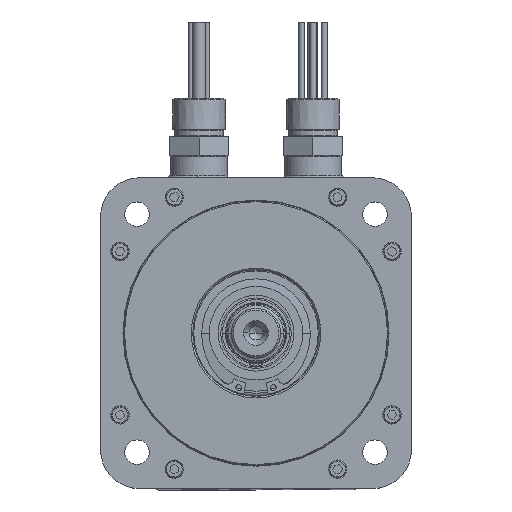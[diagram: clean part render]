
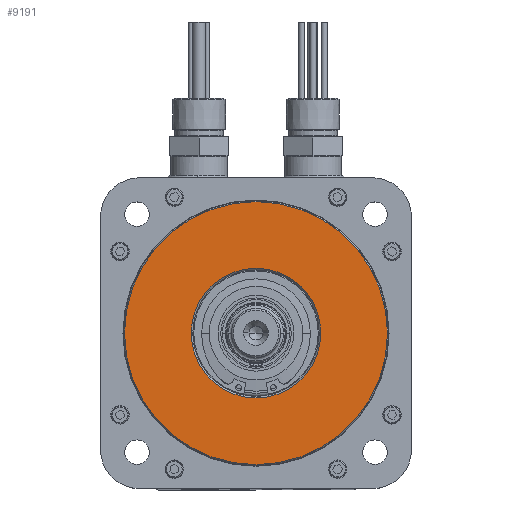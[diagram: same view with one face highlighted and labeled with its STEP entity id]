
A CAD part, top view. The second image highlights one B-rep face of the part: STEP entity #9191.
In plain terms, the highlighted planar face has unit normal (0, 0, 1).
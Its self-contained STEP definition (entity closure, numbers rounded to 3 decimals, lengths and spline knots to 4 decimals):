
#1458 = VERTEX_POINT ( 'NONE', #26340 ) ;
#3085 = DIRECTION ( 'NONE',  ( 0., 0., 1. ) ) ;
#4900 = VERTEX_POINT ( 'NONE', #22883 ) ;
#5032 = ORIENTED_EDGE ( 'NONE', *, *, #56077, .T. ) ;
#6415 = EDGE_CURVE ( 'NONE', #1458, #58271, #29816, .T. ) ;
#8069 = VERTEX_POINT ( 'NONE', #66241 ) ;
#8477 = CARTESIAN_POINT ( 'NONE',  ( 1.2507, 0., 11.627 ) ) ;
#9191 = ADVANCED_FACE ( 'NONE', ( #23707, #67849 ), #55887, .T. ) ;
#18039 = AXIS2_PLACEMENT_3D ( 'NONE', #29398, #66671, #34752 ) ;
#20230 = ORIENTED_EDGE ( 'NONE', *, *, #68920, .T. ) ;
#22883 = CARTESIAN_POINT ( 'NONE',  ( 2.5391, 0., 11.627 ) ) ;
#23310 = DIRECTION ( 'NONE',  ( 0., 0., -1. ) ) ;
#23707 = FACE_OUTER_BOUND ( 'NONE', #55006, .T. ) ;
#23776 = DIRECTION ( 'NONE',  ( 0., 0., 1. ) ) ;
#26340 = CARTESIAN_POINT ( 'NONE',  ( -1.2507, 0., 11.627 ) ) ;
#26574 = DIRECTION ( 'NONE',  ( 0., 0., 1. ) ) ;
#28141 = CIRCLE ( 'NONE', #30258, 2.5391 ) ;
#29398 = CARTESIAN_POINT ( 'NONE',  ( 0., 0., 11.627 ) ) ;
#29816 = CIRCLE ( 'NONE', #61655, 1.2508 ) ;
#30258 = AXIS2_PLACEMENT_3D ( 'NONE', #55608, #23776, #60981 ) ;
#34752 = DIRECTION ( 'NONE',  ( 1., 0., 0. ) ) ;
#40325 = DIRECTION ( 'NONE',  ( 1., 0., 0. ) ) ;
#47669 = EDGE_LOOP ( 'NONE', ( #65011, #62632 ) ) ;
#50123 = AXIS2_PLACEMENT_3D ( 'NONE', #61460, #3085, #40325 ) ;
#52530 = CIRCLE ( 'NONE', #55018, 2.5391 ) ;
#55006 = EDGE_LOOP ( 'NONE', ( #5032, #20230 ) ) ;
#55018 = AXIS2_PLACEMENT_3D ( 'NONE', #58427, #26574, #63811 ) ;
#55173 = CARTESIAN_POINT ( 'NONE',  ( 0., 0., 11.627 ) ) ;
#55608 = CARTESIAN_POINT ( 'NONE',  ( 0., 0., 11.627 ) ) ;
#55887 = PLANE ( 'NONE',  #50123 ) ;
#56077 = EDGE_CURVE ( 'NONE', #8069, #4900, #28141, .T. ) ;
#58271 = VERTEX_POINT ( 'NONE', #8477 ) ;
#58427 = CARTESIAN_POINT ( 'NONE',  ( 0., 0., 11.627 ) ) ;
#60512 = DIRECTION ( 'NONE',  ( 1., 0., 0. ) ) ;
#60782 = EDGE_CURVE ( 'NONE', #58271, #1458, #63869, .T. ) ;
#60981 = DIRECTION ( 'NONE',  ( 1., 0., 0. ) ) ;
#61460 = CARTESIAN_POINT ( 'NONE',  ( 0., 1.2208, 11.627 ) ) ;
#61655 = AXIS2_PLACEMENT_3D ( 'NONE', #55173, #23310, #60512 ) ;
#62632 = ORIENTED_EDGE ( 'NONE', *, *, #6415, .T. ) ;
#63811 = DIRECTION ( 'NONE',  ( 1., 0., 0. ) ) ;
#63869 = CIRCLE ( 'NONE', #18039, 1.2508 ) ;
#65011 = ORIENTED_EDGE ( 'NONE', *, *, #60782, .T. ) ;
#66241 = CARTESIAN_POINT ( 'NONE',  ( -2.5391, 0., 11.627 ) ) ;
#66671 = DIRECTION ( 'NONE',  ( 0., 0., -1. ) ) ;
#67849 = FACE_BOUND ( 'NONE', #47669, .T. ) ;
#68920 = EDGE_CURVE ( 'NONE', #4900, #8069, #52530, .T. ) ;
